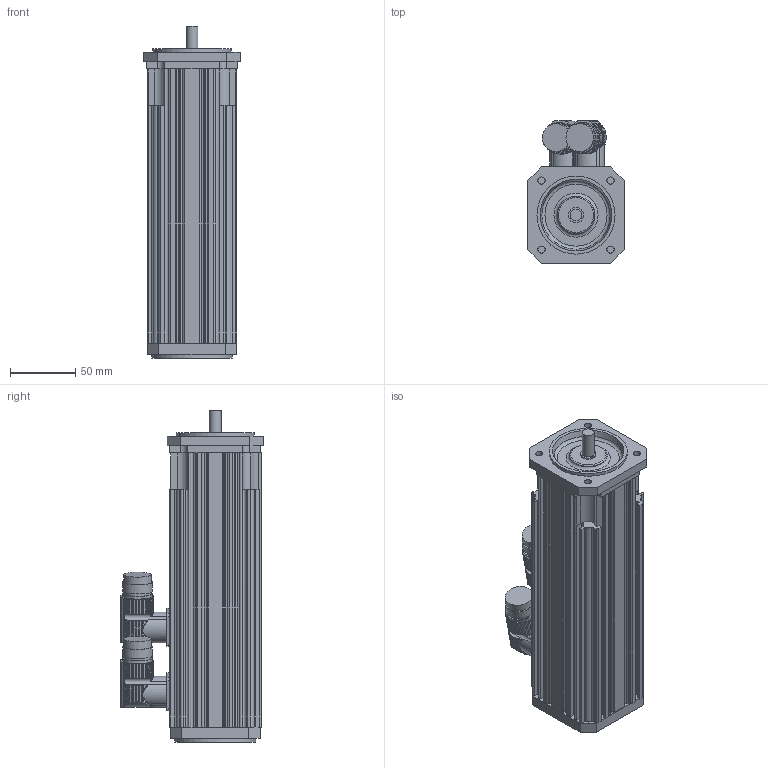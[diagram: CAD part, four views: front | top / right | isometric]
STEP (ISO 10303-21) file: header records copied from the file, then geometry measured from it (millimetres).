
FILE_DESCRIPTION(/* description */ (''),/* implementation_level */ '2;1');
FILE_NAME(/* name */ 'KSA246_Ix',/* time_stamp */ '2009-02-26T12:51:53+01:00',/* author */ (''),/* organization */ (''),/* preprocessor_version */ 'ST-DEVELOPER v8',/* originating_system */ 'UNIGRAPHICS SOLUTIONS - UNIGRAPHICS 18.0',/* authorisation */ '');
FILE_SCHEMA (('AUTOMOTIVE_DESIGN { 1 2 10303 214 0 1 1 1 }'));
Length unit declared in the file: millimetre
Products named in the file (4): Lagersch2AS_0; Winkelflanschdose_0; Lagersch2BS_0; KSA244_Ix_0
Assembly tree (4 placements, depth 2):
  KSA244_Ix_0
    Lagersch2BS_0
    Winkelflanschdose_0  x2
    Lagersch2AS_0
Bounding box: 74 x 109.69 x 255 mm (x, y, z)
Volume: 439007 mm3; surface area: 170346.3 mm2
Topology: 5 solids, 5 shells, 640 faces, 1787 edges, 1166 vertices
Faces by surface type: cylinder 402, plane 185, torus 16, bspline 16, sphere 16, cone 5
Full cylindrical faces by diameter (mm): 5.5 x4, 9 x1, 12 x1, 16 x2, 20 x2, 21 x2, 21.5 x2, 23 x4, 60 x2, 61 x2, 62 x1
Entity records: 16144 total; most frequent: CARTESIAN_POINT 3740, ORIENTED_EDGE 2534, DIRECTION 2486, EDGE_CURVE 1267, AXIS2_PLACEMENT_3D 938, VERTEX_POINT 844, LINE 610, VECTOR 610
